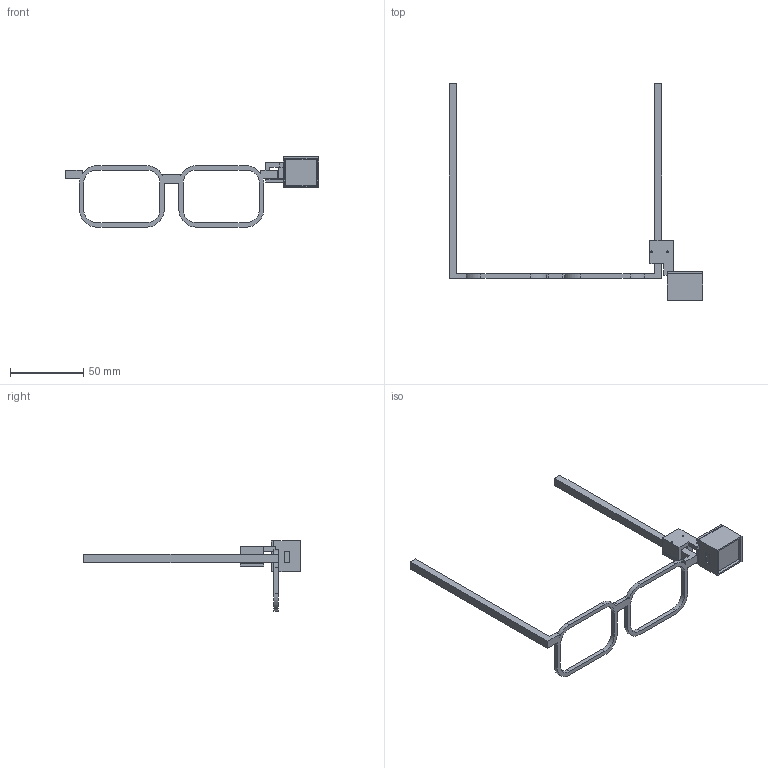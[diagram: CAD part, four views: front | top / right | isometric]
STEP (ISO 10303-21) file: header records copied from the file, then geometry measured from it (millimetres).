
FILE_DESCRIPTION(('FreeCAD Model'),'2;1');
FILE_NAME('Open CASCADE Shape Model','2026-10-29T21:27:26',('FreeCAD'),( 'FreeCAD'),'Open CASCADE STEP processor 7.8','FreeCAD','Unknown');
FILE_SCHEMA(('AUTOMOTIVE_DESIGN { 1 0 10303 214 1 1 1 1 }'));
Length unit declared in the file: millimetre
Products named in the file (1): Open CASCADE STEP translator 7.8 1
Bounding box: 173 x 148 x 48 mm (x, y, z)
Volume: 21559.1 mm3; surface area: 18788.9 mm2
Topology: 5 solids, 5 shells, 122 faces, 336 edges, 224 vertices
Faces by surface type: plane 98, cylinder 24
Full cylindrical faces by diameter (mm): 1.3 x2, 1.8 x2
Entity records: 3890 total; most frequent: CARTESIAN_POINT 683, ORIENTED_EDGE 672, DIRECTION 630, EDGE_CURVE 336, LINE 288, VECTOR 288, VERTEX_POINT 224, AXIS2_PLACEMENT_3D 171
